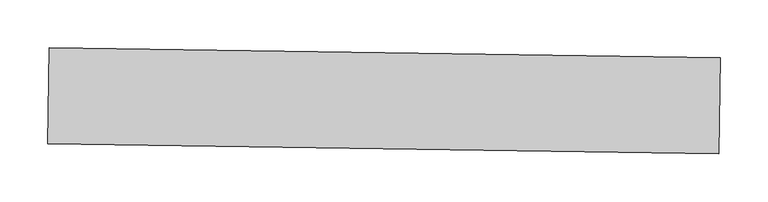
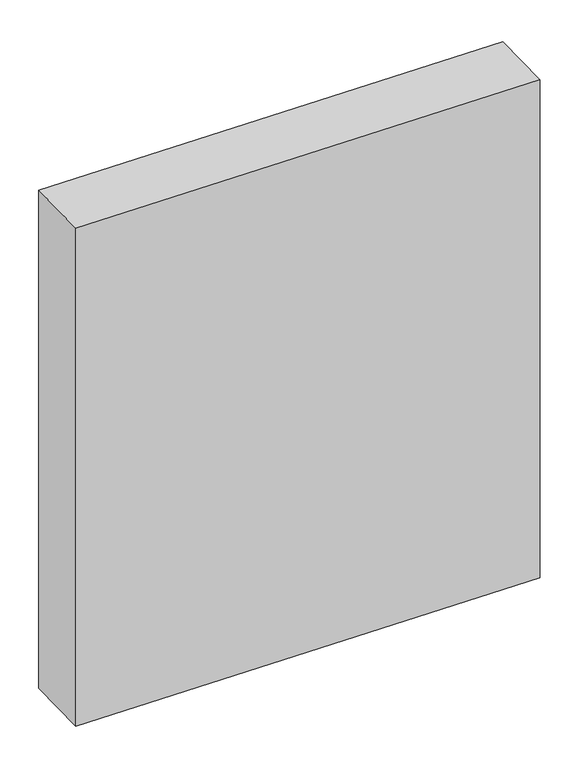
"""IFC4 building model written with IfcOpenShell, lengths in millimetres: proxy geometry, Modelos genéricos 2 : Modelos genéricos 2."""

from ifc_helpers import new_model, si_unit, frame, origin, place, context, project, spatial, polyline, outline, extrude, source, transform, mapped, element, save


def generic_models_71a26b62(model_context):
    return source(origin(), model_context, "Body", "SweptSolid", [
        extrude(outline(polyline([(-9684.2631684, 58.7197949), (-10384.1866471, 69.0698648), (-10382.7080657, 169.0589332), (-9682.784587, 158.7088633), (-9684.2631684, 58.7197949)])), frame((0.0, 0.0, 107500.0), z_axis=(0.0, 0.0, 1.0), x_axis=(1.0, 0.0, 0.0)), (0.0, 0.0, 1.0), 800.0),
    ])


if __name__ == "__main__":
    model = new_model("IFC4")
    model_context = context("Model", 3, world=origin())
    ifc_project = project(units=[si_unit("LENGTHUNIT", "METRE", prefix="MILLI")], contexts=[model_context])
    site = spatial("IfcSite", under=ifc_project)
    building = spatial("IfcBuilding", under=site)
    placement = place(None, origin())
    generic_models_shape = generic_models_71a26b62(model_context)
    element("IfcBuildingElementProxy", 1, Name="Modelos genéricos 2 : Modelos genéricos 2", ObjectType="Modelos genéricos 2 : Modelos genéricos 2", at=placement, inside=building, context=model_context, shape_type="MappedRepresentation", body=[
        mapped(generic_models_shape, transform((0.0, 0.0, 0.0), x_axis=(1.0, 0.0, 0.0), y_axis=(0.0, 1.0, 0.0), z_axis=(0.0, 0.0, 1.0))),
    ])
    save(model, "model.ifc")
